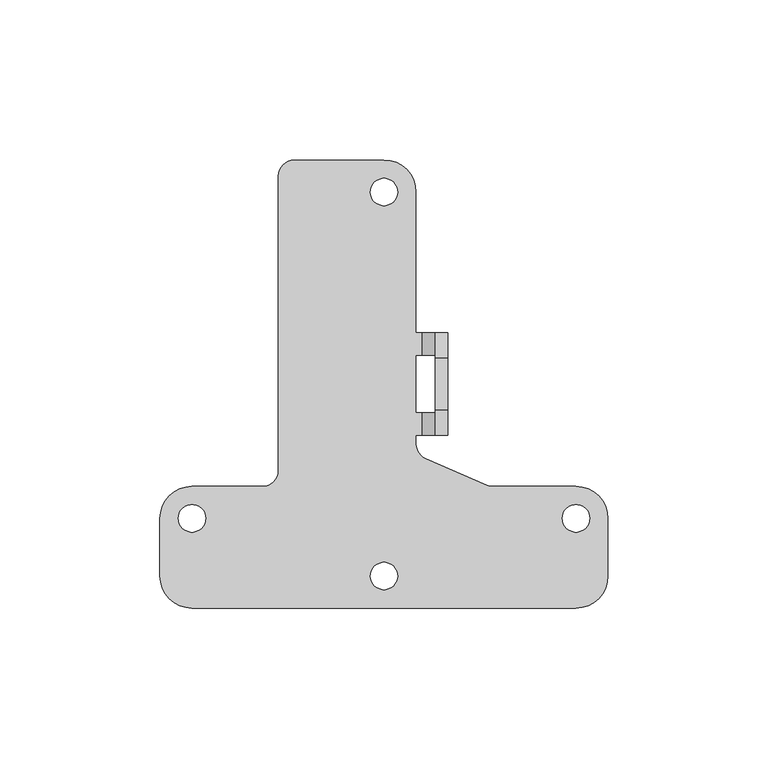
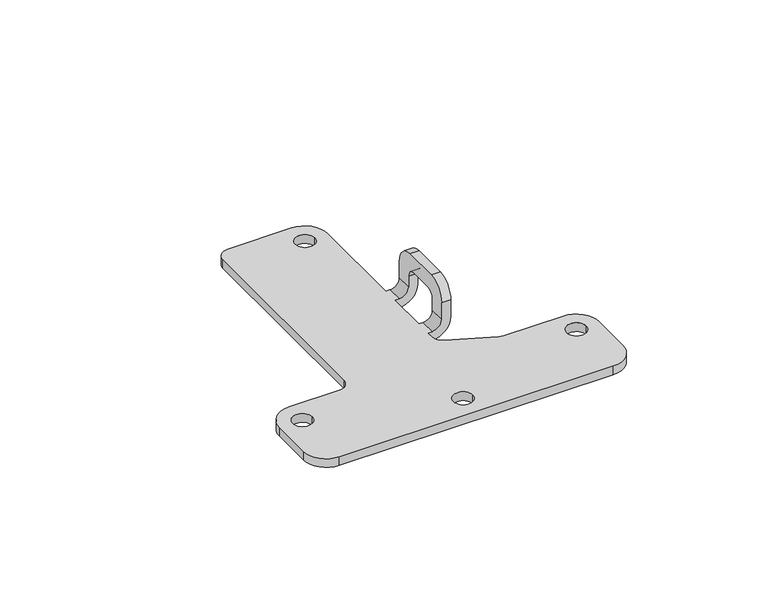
"""IFC4 building model written with IfcOpenShell, lengths in millimetres: proxy geometry, d&b U-Series U3 U5 Wall Mount : d&b U-Series U3 U5 Wall Mount."""

from ifc_helpers import new_model, si_unit, frame, origin, place, context, project, spatial, polyline, circle_curve, source, transform, mapped, element, save
from ifc_brep_helpers import plane_surface, cylinder_surface, revolved_surface, advanced_brep


def communication_devices_57c54264(model_context):
    return source(origin(), model_context, "Body", "AdvancedBrep", [
        advanced_brep(
        [(-70.0, -18.0, 4.0), (-60.0, -28.0, 4.0), (60.0, -28.0, 4.0), (70.0, -18.0, 4.0), (70.0, 0.0, 4.0), (60.0, 10.0, 4.0), (34.0399362, 10.0, 4.0), (32.0463056, 10.4146497, 4.0), (13.0063694, 18.6928829, 4.0), (10.0, 23.2782331, 4.0), (10.0, 26.0, 4.0), (11.8, 26.0, 4.0), (11.8, 33.0, 4.0), (10.0, 33.0, 4.0), (10.0, 51.0, 4.0), (11.8, 51.0, 4.0), (11.8, 58.0, 4.0), (10.0, 58.0, 4.0), (10.0, 102.0, 4.0), (0.0, 112.0, 4.0), (-28.0, 112.0, 4.0), (-33.0, 107.0, 4.0), (-33.0, 15.0, 4.0), (-38.0, 10.0, 4.0), (-60.0, 10.0, 4.0), (-70.0, 0.0, 4.0), (-64.3, 0.0, 4.0), (-55.7, 0.0, 4.0), (55.7, 0.0, 4.0), (64.3, 0.0, 4.0), (-4.25, -18.0, 4.0), (4.25, -18.0, 4.0), (-4.25, 102.0, 4.0), (4.25, 102.0, 4.0), (-70.0, -18.0, 0.0), (-70.0, 0.0, 0.0), (-60.0, 10.0, 0.0), (-38.0, 10.0, 0.0), (-33.0, 15.0, 0.0), (-33.0, 107.0, 0.0), (-28.0, 112.0, 0.0), (0.0, 112.0, 0.0), (10.0, 102.0, 0.0), (10.0, 58.0, 0.0), (11.8, 58.0, 0.0), (11.8, 51.0, 0.0), (10.0, 51.0, 0.0), (10.0, 33.0, 0.0), (11.8, 33.0, 0.0), (11.8, 26.0, 0.0), (10.0, 26.0, 0.0), (10.0, 23.2782331, 0.0), (13.0063694, 18.6928829, 0.0), (32.0463056, 10.4146497, 0.0), (34.0399362, 10.0, 0.0), (60.0, 10.0, 0.0), (70.0, 0.0, 0.0), (70.0, -18.0, 0.0), (60.0, -28.0, 0.0), (-60.0, -28.0, 0.0), (-64.3, 0.0, 0.0), (-55.7, 0.0, 0.0), (55.7, 0.0, 0.0), (64.3, 0.0, 0.0), (-4.25, -18.0, 0.0), (4.25, -18.0, 0.0), (-4.25, 102.0, 0.0), (4.25, 102.0, 0.0), (16.0, 26.0, 8.2), (20.0, 26.0, 8.2), (20.0, 26.0, 16.0), (16.0, 26.0, 16.0), (20.0, 33.0, 13.0), (20.0, 33.0, 8.2), (16.0, 33.0, 8.2), (16.0, 33.0, 13.0), (16.0, 34.0, 24.0), (16.0, 50.0, 24.0), (16.0, 58.0, 16.0), (16.0, 58.0, 8.2), (16.0, 51.0, 8.2), (16.0, 51.0, 13.0), (16.0, 47.0, 17.0), (16.0, 37.0, 17.0), (20.0, 37.0, 17.0), (20.0, 47.0, 17.0), (20.0, 51.0, 13.0), (20.0, 51.0, 8.2), (20.0, 58.0, 8.2), (20.0, 58.0, 16.0), (20.0, 50.0, 24.0), (20.0, 34.0, 24.0)],
        [
            (0, 1, circle_curve(frame((-60.0, -18.0, 4.0), z_axis=(0.0, 0.0, 1.0), x_axis=(1.0, 0.0, 0.0)), 10.0)),
            (1, 2),
            (2, 3, circle_curve(frame((60.0, -18.0, 4.0), z_axis=(0.0, 0.0, 1.0), x_axis=(1.0, 0.0, 0.0)), 10.0)),
            (3, 4),
            (4, 5, circle_curve(frame((60.0, 0.0, 4.0), z_axis=(0.0, 0.0, 1.0), x_axis=(1.0, 0.0, 0.0)), 10.0)),
            (5, 6),
            (6, 7, circle_curve(frame((34.0399362, 15.0, 4.0), z_axis=(0.0, 0.0, -1.0), x_axis=(1.0, 0.0, 0.0)), 5.0)),
            (7, 8),
            (8, 9, circle_curve(frame((15.0, 23.2782331, 4.0), z_axis=(0.0, 0.0, -1.0), x_axis=(1.0, 0.0, 0.0)), 5.0)),
            (9, 10),
            (10, 11),
            (11, 12),
            (12, 13),
            (13, 14),
            (14, 15),
            (15, 16),
            (16, 17),
            (17, 18),
            (18, 19, circle_curve(frame((0.0, 102.0, 4.0), z_axis=(0.0, 0.0, 1.0), x_axis=(1.0, 0.0, 0.0)), 10.0)),
            (19, 20),
            (20, 21, circle_curve(frame((-28.0, 107.0, 4.0), z_axis=(0.0, 0.0, 1.0), x_axis=(1.0, 0.0, 0.0)), 5.0)),
            (21, 22),
            (22, 23, circle_curve(frame((-38.0, 15.0, 4.0), z_axis=(0.0, 0.0, -1.0), x_axis=(1.0, 0.0, 0.0)), 5.0)),
            (23, 24),
            (24, 25, circle_curve(frame((-60.0, 0.0, 4.0), z_axis=(0.0, 0.0, 1.0), x_axis=(1.0, 0.0, 0.0)), 10.0)),
            (25, 0),
            (26, 27, circle_curve(frame((-60.0, 0.0, 4.0), z_axis=(0.0, 0.0, -1.0), x_axis=(1.0, 0.0, 0.0)), 4.3)),
            (27, 26, circle_curve(frame((-60.0, 0.0, 4.0), z_axis=(0.0, 0.0, -1.0), x_axis=(1.0, 0.0, 0.0)), 4.3)),
            (28, 29, circle_curve(frame((60.0, 0.0, 4.0), z_axis=(0.0, 0.0, -1.0), x_axis=(1.0, 0.0, 0.0)), 4.3)),
            (29, 28, circle_curve(frame((60.0, 0.0, 4.0), z_axis=(0.0, 0.0, -1.0), x_axis=(1.0, 0.0, 0.0)), 4.3)),
            (30, 31, circle_curve(frame((0.0, -18.0, 4.0), z_axis=(0.0, 0.0, -1.0), x_axis=(1.0, 0.0, 0.0)), 4.25)),
            (31, 30, circle_curve(frame((0.0, -18.0, 4.0), z_axis=(0.0, 0.0, -1.0), x_axis=(1.0, 0.0, 0.0)), 4.25)),
            (32, 33, circle_curve(frame((0.0, 102.0, 4.0), z_axis=(0.0, 0.0, -1.0), x_axis=(1.0, 0.0, 0.0)), 4.25)),
            (33, 32, circle_curve(frame((0.0, 102.0, 4.0), z_axis=(0.0, 0.0, -1.0), x_axis=(1.0, 0.0, 0.0)), 4.25)),
            (34, 35),
            (35, 36, circle_curve(frame((-60.0, 0.0, 0.0), z_axis=(0.0, 0.0, -1.0), x_axis=(1.0, 0.0, 0.0)), 10.0)),
            (36, 37),
            (37, 38, circle_curve(frame((-38.0, 15.0, 0.0), z_axis=(0.0, 0.0, 1.0), x_axis=(1.0, 0.0, 0.0)), 5.0)),
            (38, 39),
            (39, 40, circle_curve(frame((-28.0, 107.0, 0.0), z_axis=(0.0, 0.0, -1.0), x_axis=(1.0, 0.0, 0.0)), 5.0)),
            (40, 41),
            (41, 42, circle_curve(frame((0.0, 102.0, 0.0), z_axis=(0.0, 0.0, -1.0), x_axis=(1.0, 0.0, 0.0)), 10.0)),
            (42, 43),
            (43, 44),
            (44, 45),
            (45, 46),
            (46, 47),
            (47, 48),
            (48, 49),
            (49, 50),
            (50, 51),
            (51, 52, circle_curve(frame((15.0, 23.2782331, 0.0), z_axis=(0.0, 0.0, 1.0), x_axis=(1.0, 0.0, 0.0)), 5.0)),
            (52, 53),
            (53, 54, circle_curve(frame((34.0399362, 15.0, 0.0), z_axis=(0.0, 0.0, 1.0), x_axis=(1.0, 0.0, 0.0)), 5.0)),
            (54, 55),
            (55, 56, circle_curve(frame((60.0, 0.0, 0.0), z_axis=(0.0, 0.0, -1.0), x_axis=(1.0, 0.0, 0.0)), 10.0)),
            (56, 57),
            (57, 58, circle_curve(frame((60.0, -18.0, 0.0), z_axis=(0.0, 0.0, -1.0), x_axis=(1.0, 0.0, 0.0)), 10.0)),
            (58, 59),
            (59, 34, circle_curve(frame((-60.0, -18.0, 0.0), z_axis=(0.0, 0.0, -1.0), x_axis=(1.0, 0.0, 0.0)), 10.0)),
            (60, 61, circle_curve(frame((-60.0, 0.0, 0.0), z_axis=(0.0, 0.0, 1.0), x_axis=(1.0, 0.0, 0.0)), 4.3)),
            (61, 60, circle_curve(frame((-60.0, 0.0, 0.0), z_axis=(0.0, 0.0, 1.0), x_axis=(1.0, 0.0, 0.0)), 4.3)),
            (62, 63, circle_curve(frame((60.0, 0.0, 0.0), z_axis=(0.0, 0.0, 1.0), x_axis=(1.0, 0.0, 0.0)), 4.3)),
            (63, 62, circle_curve(frame((60.0, 0.0, 0.0), z_axis=(0.0, 0.0, 1.0), x_axis=(1.0, 0.0, 0.0)), 4.3)),
            (64, 65, circle_curve(frame((0.0, -18.0, 0.0), z_axis=(0.0, 0.0, 1.0), x_axis=(1.0, 0.0, 0.0)), 4.25)),
            (65, 64, circle_curve(frame((0.0, -18.0, 0.0), z_axis=(0.0, 0.0, 1.0), x_axis=(1.0, 0.0, 0.0)), 4.25)),
            (66, 67, circle_curve(frame((0.0, 102.0, 0.0), z_axis=(0.0, 0.0, 1.0), x_axis=(1.0, 0.0, 0.0)), 4.25)),
            (67, 66, circle_curve(frame((0.0, 102.0, 0.0), z_axis=(0.0, 0.0, 1.0), x_axis=(1.0, 0.0, 0.0)), 4.25)),
            (25, 35),
            (34, 0),
            (24, 36),
            (23, 37),
            (22, 38),
            (21, 39),
            (20, 40),
            (19, 41),
            (18, 42),
            (17, 43),
            (13, 47),
            (46, 14),
            (9, 51),
            (50, 10),
            (8, 52),
            (7, 53),
            (6, 54),
            (5, 55),
            (4, 56),
            (3, 57),
            (2, 58),
            (1, 59),
            (27, 61),
            (60, 26),
            (29, 63),
            (62, 28),
            (31, 65),
            (64, 30),
            (33, 67),
            (66, 32),
            (68, 11, circle_curve(frame((11.8, 26.0, 8.2), z_axis=(0.0, 1.0, 0.0), x_axis=(1.0, 0.0, 0.0)), 4.2)),
            (49, 69, circle_curve(frame((11.8, 26.0, 8.2), z_axis=(0.0, -1.0, 0.0), x_axis=(1.0, 0.0, 0.0)), 8.2)),
            (69, 70),
            (70, 71),
            (71, 68),
            (72, 73),
            (73, 48, circle_curve(frame((11.8, 33.0, 8.2), z_axis=(0.0, 1.0, 0.0), x_axis=(1.0, 0.0, 0.0)), 8.2)),
            (12, 74, circle_curve(frame((11.8, 33.0, 8.2), z_axis=(0.0, -1.0, 0.0), x_axis=(1.0, 0.0, 0.0)), 4.2)),
            (74, 75),
            (75, 72),
            (71, 76, circle_curve(frame((16.0, 34.0, 16.0), z_axis=(-1.0, 0.0, 0.0), x_axis=(0.0, 0.0, -1.0)), 8.0)),
            (76, 77),
            (77, 78, circle_curve(frame((16.0, 50.0, 16.0), z_axis=(-1.0, 0.0, 0.0), x_axis=(0.0, 0.0, -1.0)), 8.0)),
            (78, 79),
            (79, 80),
            (80, 81),
            (81, 82, circle_curve(frame((16.0, 47.0, 13.0), z_axis=(1.0, 0.0, 0.0), x_axis=(0.0, 0.0, -1.0)), 4.0)),
            (82, 83),
            (83, 75, circle_curve(frame((16.0, 37.0, 13.0), z_axis=(1.0, 0.0, 0.0), x_axis=(0.0, 0.0, -1.0)), 4.0)),
            (74, 68),
            (73, 69),
            (72, 84, circle_curve(frame((20.0, 37.0, 13.0), z_axis=(-1.0, 0.0, 0.0), x_axis=(0.0, 0.0, -1.0)), 4.0)),
            (84, 85),
            (85, 86, circle_curve(frame((20.0, 47.0, 13.0), z_axis=(-1.0, 0.0, 0.0), x_axis=(0.0, 0.0, -1.0)), 4.0)),
            (86, 87),
            (87, 88),
            (88, 89),
            (89, 90, circle_curve(frame((20.0, 50.0, 16.0), z_axis=(1.0, 0.0, 0.0), x_axis=(0.0, 0.0, -1.0)), 8.0)),
            (90, 91),
            (91, 70, circle_curve(frame((20.0, 34.0, 16.0), z_axis=(1.0, 0.0, 0.0), x_axis=(0.0, 0.0, -1.0)), 8.0)),
            (86, 81),
            (80, 15, circle_curve(frame((11.8, 51.0, 8.2), z_axis=(0.0, 1.0, 0.0), x_axis=(1.0, 0.0, 0.0)), 4.2)),
            (45, 87, circle_curve(frame((11.8, 51.0, 8.2), z_axis=(0.0, -1.0, 0.0), x_axis=(1.0, 0.0, 0.0)), 8.2)),
            (88, 44, circle_curve(frame((11.8, 58.0, 8.2), z_axis=(0.0, 1.0, 0.0), x_axis=(1.0, 0.0, 0.0)), 8.2)),
            (16, 79, circle_curve(frame((11.8, 58.0, 8.2), z_axis=(0.0, -1.0, 0.0), x_axis=(1.0, 0.0, 0.0)), 4.2)),
            (78, 89),
            (90, 77),
            (76, 91),
            (83, 84),
            (82, 85),
        ],
        [
            plane_surface(frame((-70.0, 0.0, 4.0), z_axis=(0.0, 0.0, 1.0), x_axis=(0.0, -1.0, 0.0))),
            plane_surface(frame((-70.0, 0.0, 0.0), z_axis=(0.0, 0.0, -1.0), x_axis=(0.0, 1.0, 0.0))),
            plane_surface(frame((-70.0, -18.0, 0.0), z_axis=(-1.0, 0.0, 0.0), x_axis=(0.0, 0.0, 1.0))),
            cylinder_surface(frame((-60.0, 0.0, 4.0), z_axis=(0.0, 0.0, -1.0), x_axis=(1.0, 0.0, 0.0)), 10.0),
            plane_surface(frame((-60.0, 10.0, 0.0), z_axis=(0.0, 1.0, 0.0), x_axis=(0.0, 0.0, 1.0))),
            revolved_surface(polyline([(-33.0, 15.0, 4.0), (-33.0, 15.0, 0.0)]), (-38.0, 15.0, 4.0), (0.0, 0.0, 1.0)),
            plane_surface(frame((-33.0, 15.0, 0.0), z_axis=(-1.0, 0.0, 0.0), x_axis=(0.0, 0.0, 1.0))),
            cylinder_surface(frame((-28.0, 107.0, 4.0), z_axis=(0.0, 0.0, -1.0), x_axis=(1.0, 0.0, 0.0)), 5.0),
            plane_surface(frame((-28.0, 112.0, 0.0), z_axis=(0.0, 1.0, 0.0), x_axis=(0.0, 0.0, 1.0))),
            cylinder_surface(frame((0.0, 102.0, 4.0), z_axis=(0.0, 0.0, -1.0), x_axis=(1.0, 0.0, 0.0)), 10.0),
            plane_surface(frame((10.0, 102.0, 0.0), z_axis=(1.0, 0.0, 0.0), x_axis=(0.0, 0.0, 1.0))),
            revolved_surface(polyline([(20.0, 23.2782331, 4.0), (20.0, 23.2782331, 0.0)]), (15.0, 23.2782331, 4.0), (0.0, 0.0, 1.0)),
            plane_surface(frame((13.0063694, 18.6928829, 0.0), z_axis=(0.3987261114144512, 0.9170700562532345, 0.0), x_axis=(0.0, 0.0, 1.0))),
            revolved_surface(polyline([(39.0399362, 15.0, 4.0), (39.0399362, 15.0, 0.0)]), (34.0399362, 15.0, 4.0), (0.0, 0.0, 1.0)),
            plane_surface(frame((34.0399362, 10.0, 0.0), z_axis=(0.0, 1.0, 0.0), x_axis=(0.0, 0.0, 1.0))),
            cylinder_surface(frame((60.0, 0.0, 4.0), z_axis=(0.0, 0.0, -1.0), x_axis=(1.0, 0.0, 0.0)), 10.0),
            plane_surface(frame((70.0, 0.0, 0.0), z_axis=(1.0, 0.0, 0.0), x_axis=(0.0, 0.0, 1.0))),
            cylinder_surface(frame((60.0, -18.0, 4.0), z_axis=(0.0, 0.0, -1.0), x_axis=(1.0, 0.0, 0.0)), 10.0),
            plane_surface(frame((60.0, -28.0, 0.0), z_axis=(0.0, -1.0, 0.0), x_axis=(0.0, 0.0, 1.0))),
            cylinder_surface(frame((-60.0, -18.0, 4.0), z_axis=(0.0, 0.0, -1.0), x_axis=(1.0, 0.0, 0.0)), 10.0),
            revolved_surface(polyline([(-55.7, 0.0, 4.0), (-55.7, 0.0, 0.0)]), (-60.0, 0.0, 0.0), (0.0, 0.0, 1.0)),
            revolved_surface(polyline([(64.3, 0.0, 4.0), (64.3, 0.0, 0.0)]), (60.0, 0.0, 0.0), (0.0, 0.0, 1.0)),
            revolved_surface(polyline([(4.25, -18.0, 4.0), (4.25, -18.0, 0.0)]), (0.0, -18.0, 0.0), (0.0, 0.0, 1.0)),
            revolved_surface(polyline([(4.25, 102.0, 4.0), (4.25, 102.0, 0.0)]), (0.0, 102.0, 0.0), (0.0, 0.0, 1.0)),
            plane_surface(frame((16.0, 26.0, 13.0), z_axis=(0.0, -1.0, 0.0), x_axis=(-1.0, 0.0, 0.0))),
            plane_surface(frame((16.0, 33.0, 13.0), z_axis=(0.0, 1.0, 0.0), x_axis=(1.0, 0.0, 0.0))),
            plane_surface(frame((16.0, 26.0, 13.0), z_axis=(-1.0, 0.0, 0.0), x_axis=(0.0, 1.0, 0.0))),
            revolved_surface(polyline([(16.0, 33.0, 8.2), (16.0, 26.0, 8.2)]), (11.8, 33.0, 8.2), (0.0, 1.0, 0.0)),
            cylinder_surface(frame((11.8, 33.0, 8.2), z_axis=(0.0, -1.0, 0.0), x_axis=(1.0, 0.0, 0.0)), 8.2),
            plane_surface(frame((20.0, 26.0, 8.2), z_axis=(1.0, 0.0, 0.0), x_axis=(0.0, 1.0, 0.0))),
            plane_surface(frame((20.0, 51.0, 16.0), z_axis=(0.0, -1.0, 0.0), x_axis=(0.0, 0.0, 1.0))),
            plane_surface(frame((20.0, 58.0, 16.0), z_axis=(0.0, 1.0, 0.0), x_axis=(0.0, 0.0, -1.0))),
            revolved_surface(polyline([(16.0, 58.0, 8.2), (16.0, 51.0, 8.2)]), (11.8, 58.0, 8.2), (0.0, 1.0, 0.0)),
            cylinder_surface(frame((11.8, 58.0, 8.2), z_axis=(0.0, -1.0, 0.0), x_axis=(1.0, 0.0, 0.0)), 8.2),
            plane_surface(frame((20.0, 50.0, 24.0), z_axis=(0.0, 0.0, 1.0), x_axis=(-1.0, 0.0, 0.0))),
            cylinder_surface(frame((16.0, 34.0, 16.0), z_axis=(1.0, 0.0, 0.0), x_axis=(0.0, 0.0, -1.0)), 8.0),
            revolved_surface(polyline([(16.0, 37.0, 9.0), (20.0, 37.0, 9.0)]), (16.0, 37.0, 13.0), (-1.0, 0.0, 0.0)),
            plane_surface(frame((20.0, 37.0, 17.0), z_axis=(0.0, 0.0, -1.0), x_axis=(-1.0, 0.0, 0.0))),
            revolved_surface(polyline([(16.0, 47.0, 9.0), (20.0, 47.0, 9.0)]), (16.0, 47.0, 13.0), (-1.0, 0.0, 0.0)),
            cylinder_surface(frame((16.0, 50.0, 16.0), z_axis=(1.0, 0.0, 0.0), x_axis=(0.0, 0.0, -1.0)), 8.0),
        ],
        [
            (0, [[1, 2, 3, 4, 5, 6, 7, 8, 9, 10, 11, 12, 13, 14, 15, 16, 17, 18, 19, 20, 21, 22, 23, 24, 25, 26], [27, 28], [29, 30], [31, 32], [33, 34]]),
            (1, [[35, 36, 37, 38, 39, 40, 41, 42, 43, 44, 45, 46, 47, 48, 49, 50, 51, 52, 53, 54, 55, 56, 57, 58, 59, 60], [61, 62], [63, 64], [65, 66], [67, 68]]),
            (2, [[-26, 69, -35, 70]]),
            (3, [[-25, 71, -36, -69]]),
            (4, [[-24, 72, -37, -71]]),
            (5, [[-23, 73, -38, -72]]),
            (6, [[-22, 74, -39, -73]]),
            (7, [[-21, 75, -40, -74]]),
            (8, [[-20, 76, -41, -75]]),
            (9, [[-19, 77, -42, -76]]),
            (10, [[-77, -18, 78, -43]]),
            (10, [[79, -47, 80, -14]]),
            (10, [[81, -51, 82, -10]]),
            (11, [[-9, 83, -52, -81]]),
            (12, [[-8, 84, -53, -83]]),
            (13, [[-7, 85, -54, -84]]),
            (14, [[-6, 86, -55, -85]]),
            (15, [[-5, 87, -56, -86]]),
            (16, [[-4, 88, -57, -87]]),
            (17, [[-3, 89, -58, -88]]),
            (18, [[-2, 90, -59, -89]]),
            (19, [[-1, -70, -60, -90]]),
            (20, [[-28, 91, -61, 92]]),
            (20, [[-27, -92, -62, -91]]),
            (21, [[-30, 93, -63, 94]]),
            (21, [[-29, -94, -64, -93]]),
            (22, [[-32, 95, -65, 96]]),
            (22, [[-31, -96, -66, -95]]),
            (23, [[-34, 97, -67, 98]]),
            (23, [[-33, -98, -68, -97]]),
            (24, [[99, -11, -82, -50, 100, 101, 102, 103]]),
            (25, [[104, 105, -48, -79, -13, 106, 107, 108]]),
            (26, [[-103, 109, 110, 111, 112, 113, 114, 115, 116, 117, -107, 118]]),
            (27, [[-99, -118, -106, -12]]),
            (28, [[-100, -49, -105, 119]]),
            (29, [[-101, -119, -104, 120, 121, 122, 123, 124, 125, 126, 127, 128]]),
            (30, [[-123, 129, -114, 130, -15, -80, -46, 131]]),
            (31, [[-125, 132, -44, -78, -17, 133, -112, 134]]),
            (32, [[-130, -113, -133, -16]]),
            (33, [[-131, -45, -132, -124]]),
            (34, [[-127, 135, -110, 136]]),
            (35, [[-128, -136, -109, -102]]),
            (36, [[-120, -108, -117, 137]]),
            (37, [[-121, -137, -116, 138]]),
            (38, [[-122, -138, -115, -129]]),
            (39, [[-126, -134, -111, -135]]),
        ],
    ),
    ])


if __name__ == "__main__":
    model = new_model("IFC4")
    model_context = context("Model", 3, world=origin())
    ifc_project = project(units=[si_unit("LENGTHUNIT", "METRE", prefix="MILLI")], contexts=[model_context])
    site = spatial("IfcSite", under=ifc_project)
    building = spatial("IfcBuilding", under=site)
    placement = place(None, origin())
    communication_devices_shape = communication_devices_57c54264(model_context)
    element("IfcBuildingElementProxy", 1, Name="d&b U-Series U3 U5 Wall Mount : d&b U-Series U3 U5 Wall Mount", ObjectType="d&b U-Series U3 U5 Wall Mount : d&b U-Series U3 U5 Wall Mount", at=placement, inside=building, context=model_context, shape_type="MappedRepresentation", body=[
        mapped(communication_devices_shape, transform((0.0, 0.0, 0.0), x_axis=(1.0, 0.0, 0.0), y_axis=(0.0, 1.0, 0.0), z_axis=(0.0, 0.0, 1.0))),
    ])
    save(model, "model.ifc")
